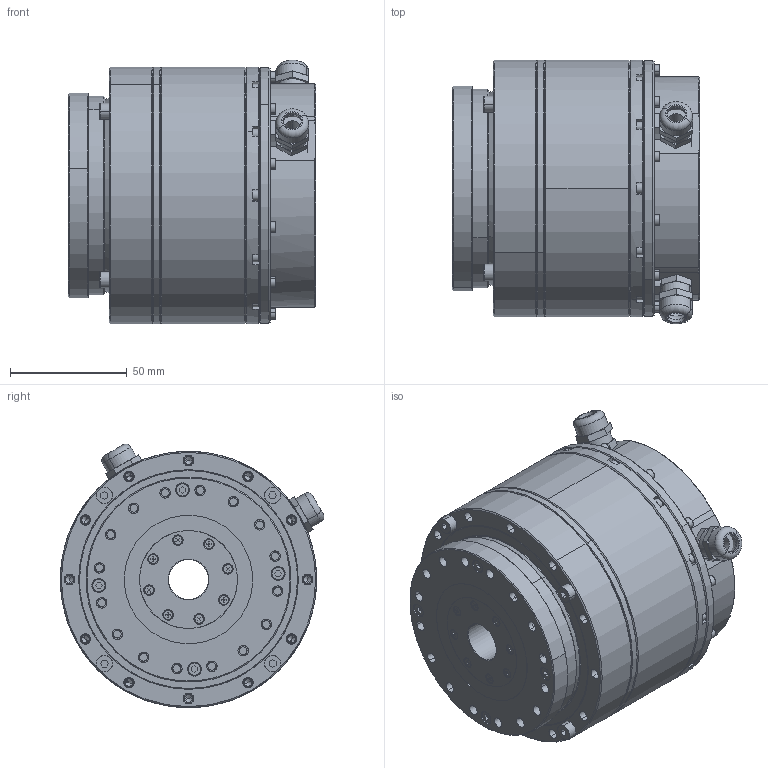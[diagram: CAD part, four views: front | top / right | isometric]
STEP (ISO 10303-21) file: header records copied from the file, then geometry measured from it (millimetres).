
FILE_DESCRIPTION (( 'STEP AP203' ), '1' );
FILE_NAME ('KAH-25CM3NS 軞蚾饜芞.STEP', '2020-09-03T03:23:42', ( '' ), ( '' ), 'SwSTEP 2.0', 'SolidWorks 2016', '' );
FILE_SCHEMA (( 'CONFIG_CONTROL_DESIGN' ));
Length unit declared in the file: millimetre
Products named in the file (1): KAH-25CM3NS 軞蚾饜芞
Bounding box: 105.9 x 113.01 x 113.01 mm (x, y, z)
Volume: 251085.5 mm3; surface area: 178276 mm2
Topology: 56 solids, 56 shells, 2019 faces, 4948 edges, 3079 vertices
Faces by surface type: cylinder 747, plane 622, cone 323, torus 211, sphere 112, bspline 4
Entity records: 63076 total; most frequent: CARTESIAN_POINT 13813, DIRECTION 10916, ORIENTED_EDGE 9752, EDGE_CURVE 4876, AXIS2_PLACEMENT_3D 4439, VERTEX_POINT 3079, EDGE_LOOP 2535, CIRCLE 2423
